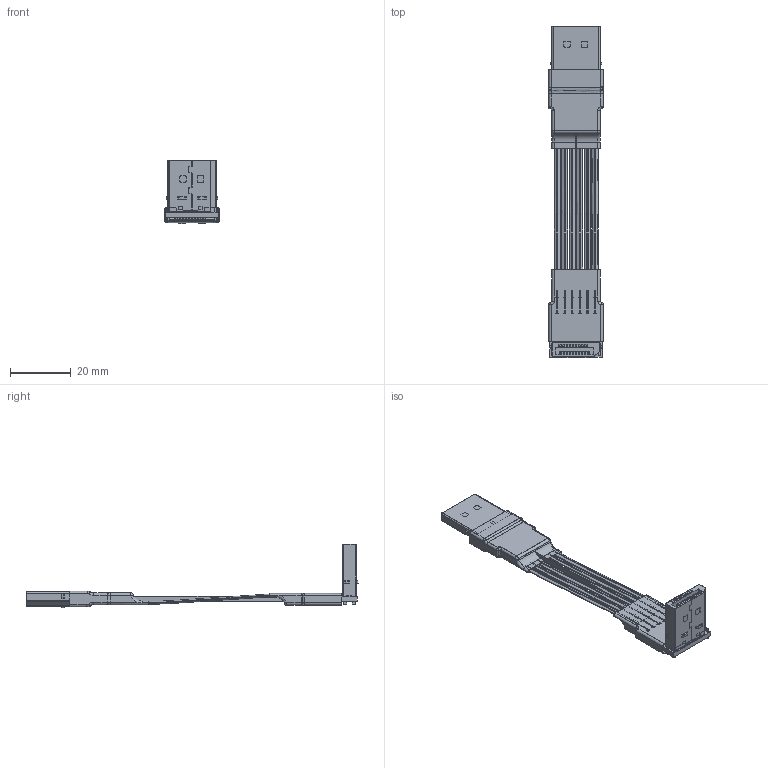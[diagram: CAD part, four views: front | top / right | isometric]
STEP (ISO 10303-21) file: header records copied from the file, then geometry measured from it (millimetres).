
FILE_DESCRIPTION(('Open CASCADE Model'),'2;1');
FILE_NAME('Open CASCADE Shape Model','2025-12-30T11:22:14',('Author'),( 'Open CASCADE'),'Open CASCADE STEP processor 7.5','Open CASCADE 7.5' ,'Unknown');
FILE_SCHEMA(('AUTOMOTIVE_DESIGN { 1 0 10303 214 1 1 1 1 }'));
Length unit declared in the file: millimetre
Products named in the file (24): PCB; Board; Open CASCADE STEP translator 7.5 2.1.1; CN2; DP-male 20220804; R1; 0603_RES; Capsule; Encapsulation; TopCover; Open CASCADE STEP translator 7.5 2.5; DP-male 20220804_4010792012; Free-Models; DP¹«ͷɈ̵¹ڠ20251104; M±¡П-S 20251023; DPbʽ¹«ͷɈ̵¹ڠ20251230
Assembly tree (27 placements, depth 4):
  PCB
    Board
      Open CASCADE STEP translator 7.5 2.1.1
    CN2
      DP-male 20220804  x2
      DP-male 20220804
    R1
      0603_RES
        Capsule
        Encapsulation  x2
        TopCover
    R1
      0603_RES
        Capsule
        Encapsulation  x2
        TopCover
    Open CASCADE STEP translator 7.5 2.5
      DP-male 20220804_4010792012  x2
      DP-male 20220804_4010792012
    Free-Models
      DP¹«ͷɈ̵¹ڠ20251104
      M±¡П-S 20251023
      M±¡П-S 20251023
      M±¡П-S 20251023
      M±¡П-S 20251023
      M±¡П-S 20251023
      M±¡П-S 20251023
      DPbʽ¹«ͷɈ̵¹ڠ20251230
Bounding box: 18.02 x 109.75 x 20.85 mm (x, y, z)
Volume: 6802 mm3; surface area: 31567.3 mm2
Topology: 22 solids, 23 shells, 4425 faces, 11589 edges, 7537 vertices
Faces by surface type: plane 2977, cylinder 1028, bspline 382, torus 24, revolution 8, offset 6
Full cylindrical faces by diameter (mm): 0.254 x48, 0.55 x20, 0.8 x2
Entity records: 185258 total; most frequent: CARTESIAN_POINT 52842, ORIENTED_EDGE 16712, DIRECTION 15585, EDGE_CURVE 8356, PRESENTATION_STYLE_ASSIGNMENT 5937, SURFACE_STYLE_USAGE 5937, SURFACE_SIDE_STYLE 5937, SURFACE_STYLE_FILL_AREA 5937
